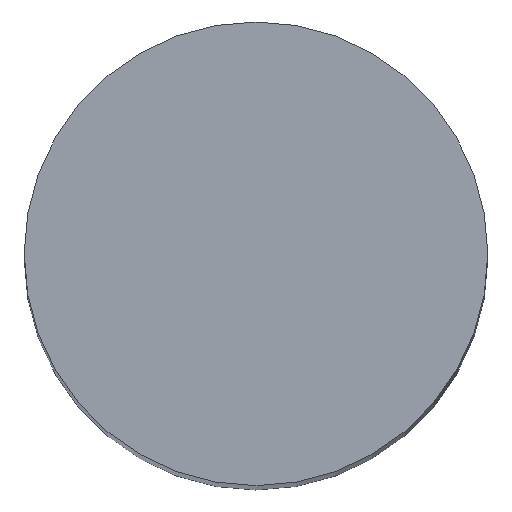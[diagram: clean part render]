
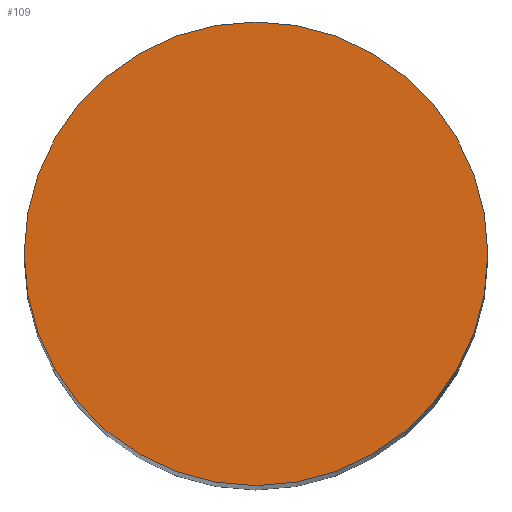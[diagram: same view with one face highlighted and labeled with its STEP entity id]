
A CAD part, top view. The second image highlights one B-rep face of the part: STEP entity #109.
In plain terms, the highlighted planar face has unit normal (0, 0, 1).
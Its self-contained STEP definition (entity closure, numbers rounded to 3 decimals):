
#24 = VERTEX_POINT('',#25);
#25 = CARTESIAN_POINT('',(0.,3.,-14.));
#32 = CYLINDRICAL_SURFACE('',#33,3.);
#33 = AXIS2_PLACEMENT_3D('',#34,#35,#36);
#34 = CARTESIAN_POINT('',(0.,0.,-46.5));
#35 = DIRECTION('',(-0.,0.,-1.));
#36 = DIRECTION('',(0.,1.,0.));
#51 = EDGE_CURVE('',#24,#24,#52,.T.);
#52 = SURFACE_CURVE('',#53,(#58,#65),.PCURVE_S1.);
#53 = CIRCLE('',#54,3.);
#54 = AXIS2_PLACEMENT_3D('',#55,#56,#57);
#55 = CARTESIAN_POINT('',(0.,0.,-14.));
#56 = DIRECTION('',(0.,-0.,1.));
#57 = DIRECTION('',(0.,1.,0.));
#58 = PCURVE('',#32,#59);
#59 = DEFINITIONAL_REPRESENTATION('',(#60),#64);
#60 = LINE('',#61,#62);
#61 = CARTESIAN_POINT('',(-0.,-32.5));
#62 = VECTOR('',#63,1.);
#63 = DIRECTION('',(-1.,0.));
#64 = ( GEOMETRIC_REPRESENTATION_CONTEXT(2) 
PARAMETRIC_REPRESENTATION_CONTEXT() REPRESENTATION_CONTEXT('2D SPACE',''
  ) );
#65 = PCURVE('',#66,#71);
#66 = PLANE('',#67);
#67 = AXIS2_PLACEMENT_3D('',#68,#69,#70);
#68 = CARTESIAN_POINT('',(0.,0.,-14.));
#69 = DIRECTION('',(0.,0.,1.));
#70 = DIRECTION('',(1.,0.,-0.));
#71 = DEFINITIONAL_REPRESENTATION('',(#72),#76);
#72 = CIRCLE('',#73,3.);
#73 = AXIS2_PLACEMENT_2D('',#74,#75);
#74 = CARTESIAN_POINT('',(0.,0.));
#75 = DIRECTION('',(0.,1.));
#76 = ( GEOMETRIC_REPRESENTATION_CONTEXT(2) 
PARAMETRIC_REPRESENTATION_CONTEXT() REPRESENTATION_CONTEXT('2D SPACE',''
  ) );
#109 = ADVANCED_FACE('',(#110),#66,.T.);
#110 = FACE_BOUND('',#111,.T.);
#111 = EDGE_LOOP('',(#112));
#112 = ORIENTED_EDGE('',*,*,#51,.T.);
